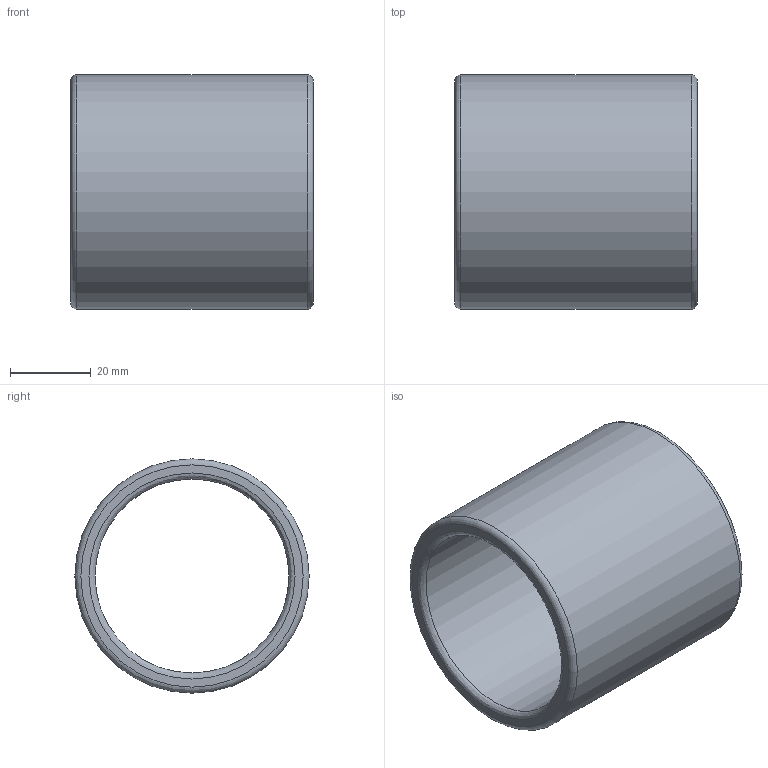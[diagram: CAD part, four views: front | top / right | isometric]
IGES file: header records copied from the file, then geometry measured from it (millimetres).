
Global section: file name: BLAG4060.ipt; native system: Autodesk Inventor 2021; preprocessor: unknown; author: SM; date: 20211207.142157; units: millimetre
Bounding box: 60 x 58 x 58 mm (x, y, z)
Volume: 49629.7 mm3; surface area: 21216.8 mm2
Topology: 1 solids, 1 shells, 8 faces, 24 edges, 18 vertices
Faces by surface type: revolution 5, plane 2, cylinder 1
Full cylindrical faces by diameter (mm): 58 x1
